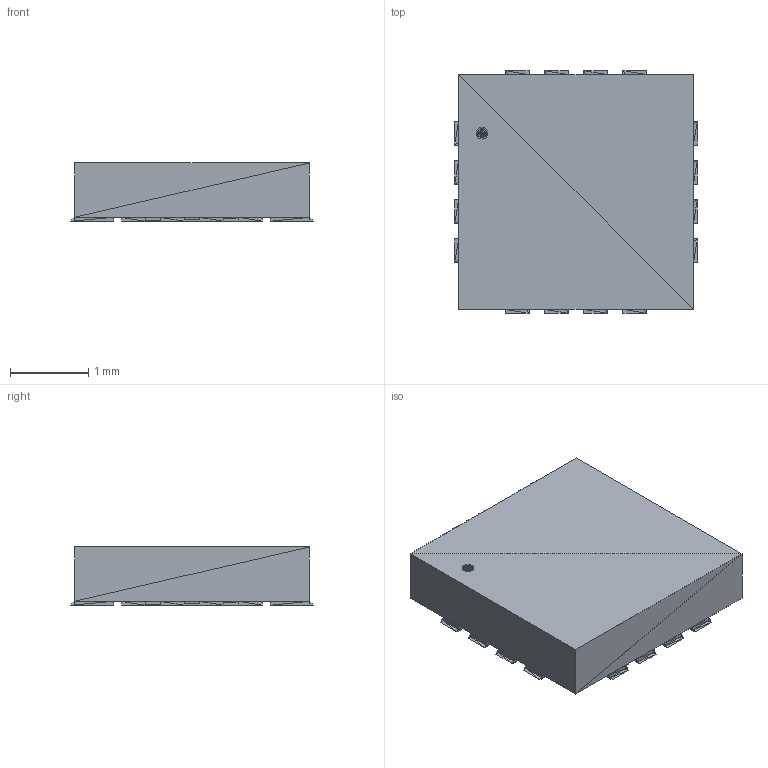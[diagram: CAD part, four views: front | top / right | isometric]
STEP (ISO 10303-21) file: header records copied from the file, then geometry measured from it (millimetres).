
FILE_DESCRIPTION(('STEP AP214'),'1');
FILE_NAME('S-PVQFN-N16','2017-12-18T02:36:51',(''),(''),'','','');
FILE_SCHEMA(('AUTOMOTIVE_DESIGN'));
Length unit declared in the file: millimetre
Products named in the file (1): product
Bounding box: 3.1 x 3.1 x 0.75 mm (x, y, z)
Surface area: 39.2 mm2 (no closed solid volume)
Topology: 0 solids, 408 shells, 408 faces, 1224 edges, 1224 vertices
Faces by surface type: plane 408
Entity records: 13523 total; most frequent: CARTESIAN_POINT 2857, DIRECTION 2042, ORIENTED_EDGE 1224, EDGE_CURVE 1224, VERTEX_POINT 1224, LINE 1224, VECTOR 1224, AXIS2_PLACEMENT_3D 409
